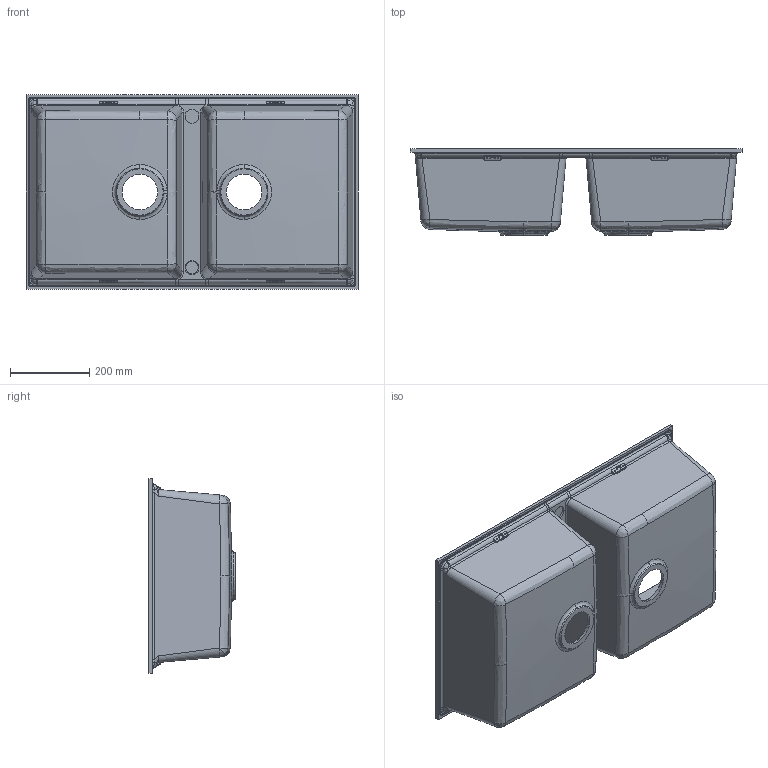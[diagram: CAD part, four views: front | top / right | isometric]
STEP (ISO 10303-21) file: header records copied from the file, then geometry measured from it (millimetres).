
FILE_DESCRIPTION (( 'STEP AP203' ), '1' );
FILE_NAME ('Best450_sottotop.STEP', '2018-10-10T09:19:55', ( '' ), ( '' ), 'SwSTEP 2.0', 'SolidWorks 2013', '' );
FILE_SCHEMA (( 'CONFIG_CONTROL_DESIGN' ));
Length unit declared in the file: millimetre
Products named in the file (1): Best450_sottotop
Bounding box: 835.52 x 216.51 x 488.35 mm (x, y, z)
Volume: 7328127.8 mm3; surface area: 1828139 mm2
Topology: 1 solids, 1 shells, 497 faces, 1176 edges, 669 vertices
Faces by surface type: bspline 262, cylinder 155, plane 72, cone 8
Entity records: 27403 total; most frequent: CARTESIAN_POINT 17575, ORIENTED_EDGE 2300, DIRECTION 1717, EDGE_CURVE 1150, AXIS2_PLACEMENT_3D 706, VERTEX_POINT 669, EDGE_LOOP 517, ADVANCED_FACE 497
